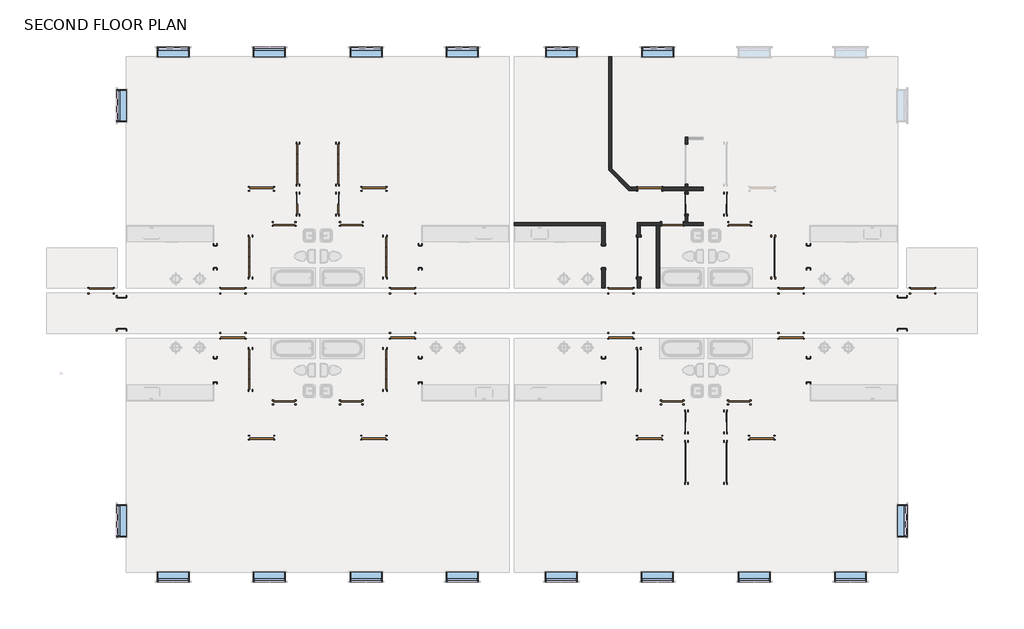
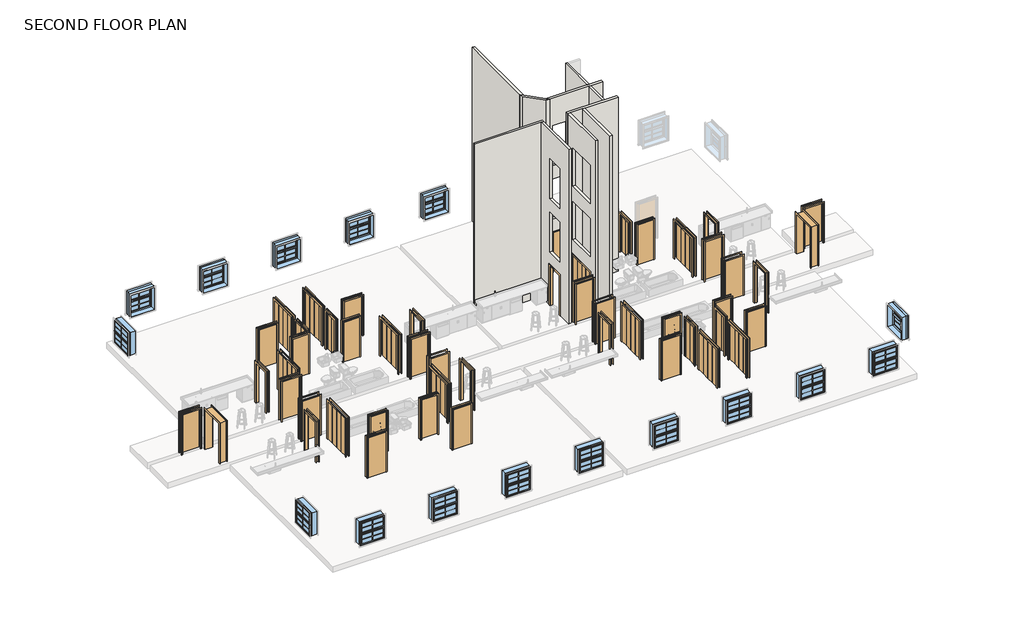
# One storey, part 1 of 3: 52 doors, 17 windows, 9 walls.
"""IFC4 building model written with IfcOpenShell, lengths in millimetres."""

from ifc_helpers import new_model, si_unit, frame, origin, place, context, project, spatial, polyline, outline, extrude, faceted_brep, transform, mapped, element, save
from components import door_3f50ce46, door_64f38517, door_5b7037ea, door_d932cd56, door_980512ef, door_ff2ed9a9, door_670c294a, door_0b3bd6c5, door_c8d27089, door_5d578f69, door_dc1527fd, door_ed16ebbe, door_053de108, door_d5256492, door_e5d25033, door_70d702ca, window_4464fd46, window_28d7aabf

model = new_model("IFC4")

# Units and contexts
model_context = context("Model", 3, world=origin())
ifc_project = project(units=[si_unit("LENGTHUNIT", "METRE", prefix="MILLI")], contexts=[model_context])

# Site, building, storey
site = spatial("IfcSite", under=ifc_project)
building = spatial("IfcBuilding", under=site)
storey = spatial("IfcBuildingStorey", under=building, Name="SECOND FLOOR PLAN", Elevation=2844.8)

# Doors
placement = place(None, origin())
door_shape = door_3f50ce46(model_context)
element("IfcDoor", 1, ObjectType="Door-Bifold_2-Panel_Flush_SlimFold_Dunbarton : 2'- 6\" x 6' - 8\"", at=placement, inside=storey, context=model_context, shape_type="MappedRepresentation", body=[
    mapped(door_shape, transform((2885.3209578, 9830.6762881, 2844.8), x_axis=(0.0, -1.0, 0.0), y_axis=(1.0, 0.0, 0.0), z_axis=(0.0, 0.0, 1.0))),
])
element("IfcDoor", 2, ObjectType="Door-Bifold_2-Panel_Flush_SlimFold_Dunbarton : 2'- 6\" x 6' - 8\"", at=placement, inside=storey, context=model_context, shape_type="MappedRepresentation", body=[
    mapped(door_shape, transform((17708.9209578, 9830.6762881, 2844.8), x_axis=(0.0, -1.0, 0.0), y_axis=(1.0, 0.0, 0.0), z_axis=(0.0, 0.0, 1.0))),
])
element("IfcDoor", 3, ObjectType="Door-Bifold_2-Panel_Flush_SlimFold_Dunbarton : 2'- 6\" x 6' - 8\"", at=placement, inside=storey, context=model_context, shape_type="MappedRepresentation", body=[
    mapped(door_shape, transform((16176.4960171, 1200.7012881, 2844.8), x_axis=(0.0, 1.0, 0.0), y_axis=(-1.0, 0.0, 0.0), z_axis=(0.0, 0.0, 1.0))),
])
door_2_shape = door_64f38517(model_context)
element("IfcDoor", 4, ObjectType="Door-Bifold_2-Panel_Flush_SlimFold_Dunbarton : 2'- 6\" x 6' - 8\"", at=placement, inside=storey, context=model_context, shape_type="MappedRepresentation", body=[
    mapped(door_2_shape, transform((1351.2960171, 9830.6762881, 2844.8), x_axis=(0.0, -1.0, 0.0), y_axis=(1.0, 0.0, 0.0), z_axis=(0.0, 0.0, 1.0))),
])
element("IfcDoor", 5, ObjectType="Door-Bifold_2-Panel_Flush_SlimFold_Dunbarton : 2'- 6\" x 6' - 8\"", at=placement, inside=storey, context=model_context, shape_type="MappedRepresentation", body=[
    mapped(door_2_shape, transform((16176.4960171, 9830.6762881, 2844.8), x_axis=(0.0, -1.0, 0.0), y_axis=(1.0, 0.0, 0.0), z_axis=(0.0, 0.0, 1.0))),
])
element("IfcDoor", 6, ObjectType="Door-Bifold_2-Panel_Flush_SlimFold_Dunbarton : 2'- 6\" x 6' - 8\"", at=placement, inside=storey, context=model_context, shape_type="MappedRepresentation", body=[
    mapped(door_2_shape, transform((17708.9209578, 1200.7012881, 2844.8), x_axis=(0.0, 1.0, 0.0), y_axis=(-1.0, 0.0, 0.0), z_axis=(0.0, 0.0, 1.0))),
])
door_3_shape = door_5b7037ea(model_context)
element("IfcDoor", 7, ObjectType="Door-Bifold 4-Panel Flush SlimFold_Dunbarton : 5'- 0\" x 6' - 8\"", at=placement, inside=storey, context=model_context, shape_type="MappedRepresentation", body=[
    mapped(door_3_shape, transform((2885.3209578, 11199.1012881, 2844.8), x_axis=(0.0, -1.0, 0.0), y_axis=(1.0, 0.0, 0.0), z_axis=(0.0, 0.0, 1.0))),
])
element("IfcDoor", 8, ObjectType="Door-Bifold 4-Panel Flush SlimFold_Dunbarton : 5'- 0\" x 6' - 8\"", at=placement, inside=storey, context=model_context, shape_type="MappedRepresentation", body=[
    mapped(door_3_shape, transform((1351.2960171, 11199.1012881, 2844.8), x_axis=(0.0, 1.0, 0.0), y_axis=(-1.0, 0.0, 0.0), z_axis=(0.0, 0.0, 1.0))),
])
element("IfcDoor", 9, ObjectType="Door-Bifold 4-Panel Flush SlimFold_Dunbarton : 5'- 0\" x 6' - 8\"", at=placement, inside=storey, context=model_context, shape_type="MappedRepresentation", body=[
    mapped(door_3_shape, transform((16176.4960171, -199.4737119, 2844.8), x_axis=(0.0, 1.0, 0.0), y_axis=(-1.0, 0.0, 0.0), z_axis=(0.0, 0.0, 1.0))),
])
element("IfcDoor", 10, ObjectType="Door-Bifold 4-Panel Flush SlimFold_Dunbarton : 5'- 0\" x 6' - 8\"", at=placement, inside=storey, context=model_context, shape_type="MappedRepresentation", body=[
    mapped(door_3_shape, transform((17708.9209578, -199.4737119, 2844.8), x_axis=(0.0, -1.0, 0.0), y_axis=(1.0, 0.0, 0.0), z_axis=(0.0, 0.0, 1.0))),
])
door_4_shape = door_d932cd56(model_context)
element("IfcDoor", 11, ObjectType="Door-Bifold 4-Panel Flush SlimFold_Dunbarton : 5'- 0\" x 6' - 8\"", at=placement, inside=storey, context=model_context, shape_type="MappedRepresentation", body=[
    mapped(door_4_shape, transform((4703.0084578, 7654.2137881, 2844.8), x_axis=(0.0, -1.0, 0.0), y_axis=(1.0, 0.0, 0.0), z_axis=(0.0, 0.0, 1.0))),
])
element("IfcDoor", 12, ObjectType="Door-Bifold 4-Panel Flush SlimFold_Dunbarton : 5'- 0\" x 6' - 8\"", at=placement, inside=storey, context=model_context, shape_type="MappedRepresentation", body=[
    mapped(door_4_shape, transform((-466.3914829, 7654.2137881, 2844.8), x_axis=(0.0, 1.0, 0.0), y_axis=(-1.0, 0.0, 0.0), z_axis=(0.0, 0.0, 1.0))),
])
element("IfcDoor", 13, ObjectType="Door-Bifold 4-Panel Flush SlimFold_Dunbarton : 5'- 0\" x 6' - 8\"", at=placement, inside=storey, context=model_context, shape_type="MappedRepresentation", body=[
    mapped(door_4_shape, transform((14358.8085171, 3345.4137881, 2844.8), x_axis=(0.0, 1.0, 0.0), y_axis=(-1.0, 0.0, 0.0), z_axis=(0.0, 0.0, 1.0))),
])
element("IfcDoor", 14, ObjectType="Door-Bifold 4-Panel Flush SlimFold_Dunbarton : 5'- 0\" x 6' - 8\"", at=placement, inside=storey, context=model_context, shape_type="MappedRepresentation", body=[
    mapped(door_4_shape, transform((-466.3914829, 3345.4137881, 2844.8), x_axis=(0.0, 1.0, 0.0), y_axis=(-1.0, 0.0, 0.0), z_axis=(0.0, 0.0, 1.0))),
])
door_5_shape = door_980512ef(model_context)
element("IfcDoor", 15, ObjectType="Door-Bifold 4-Panel Flush SlimFold_Dunbarton : 5'- 0\" x 6' - 8\"", at=placement, inside=storey, context=model_context, shape_type="MappedRepresentation", body=[
    mapped(door_5_shape, transform((14358.8085171, 7654.2137881, 2844.8), x_axis=(0.0, -1.0, 0.0), y_axis=(1.0, 0.0, 0.0), z_axis=(0.0, 0.0, 1.0))),
])
element("IfcDoor", 16, ObjectType="Door-Bifold 4-Panel Flush SlimFold_Dunbarton : 5'- 0\" x 6' - 8\"", at=placement, inside=storey, context=model_context, shape_type="MappedRepresentation", body=[
    mapped(door_5_shape, transform((19526.6084578, 7654.2137881, 2844.8), x_axis=(0.0, 1.0, 0.0), y_axis=(-1.0, 0.0, 0.0), z_axis=(0.0, 0.0, 1.0))),
])
element("IfcDoor", 17, ObjectType="Door-Bifold 4-Panel Flush SlimFold_Dunbarton : 5'- 0\" x 6' - 8\"", at=placement, inside=storey, context=model_context, shape_type="MappedRepresentation", body=[
    mapped(door_5_shape, transform((4703.0084578, 3345.4137881, 2844.8), x_axis=(0.0, 1.0, 0.0), y_axis=(-1.0, 0.0, 0.0), z_axis=(0.0, 0.0, 1.0))),
])
door_6_shape = door_ff2ed9a9(model_context)
element("IfcDoor", 18, ObjectType="M_Opening-Cased : 2'-10\"", at=placement, inside=storey, context=model_context, shape_type="MappedRepresentation", body=[
    mapped(door_6_shape, transform((-1793.4540125, 7662.4024448, 2844.8), x_axis=(0.0, 1.0, 0.0), y_axis=(-1.0, 0.0, 0.0), z_axis=(0.0, 0.0, 1.0))),
])
element("IfcDoor", 19, ObjectType="M_Opening-Cased : 2'-10\"", at=placement, inside=storey, context=model_context, shape_type="MappedRepresentation", body=[
    mapped(door_6_shape, transform((13031.7459875, 7662.4024448, 2844.8), x_axis=(0.0, 1.0, 0.0), y_axis=(-1.0, 0.0, 0.0), z_axis=(0.0, 0.0, 1.0))),
])
door_7_shape = door_670c294a(model_context)
element("IfcDoor", 20, ObjectType="M_Opening-Cased : 2'-10\"", at=placement, inside=storey, context=model_context, shape_type="MappedRepresentation", body=[
    mapped(door_7_shape, transform((20853.6709875, 7662.4024448, 2844.8), x_axis=(0.0, 1.0, 0.0), y_axis=(-1.0, 0.0, 0.0), z_axis=(0.0, 0.0, 1.0))),
])
element("IfcDoor", 21, ObjectType="M_Opening-Cased : 2'-10\"", at=placement, inside=storey, context=model_context, shape_type="MappedRepresentation", body=[
    mapped(door_7_shape, transform((6030.0709875, 7662.4024448, 2844.8), x_axis=(0.0, 1.0, 0.0), y_axis=(-1.0, 0.0, 0.0), z_axis=(0.0, 0.0, 1.0))),
])
door_8_shape = door_0b3bd6c5(model_context)
element("IfcDoor", 22, ObjectType="M_Opening-Cased : 3'-0\"", at=placement, inside=storey, context=model_context, shape_type="MappedRepresentation", body=[
    mapped(door_8_shape, transform((-1793.4540125, 3311.8251313, 2844.8), x_axis=(0.0, -1.0, 0.0), y_axis=(1.0, 0.0, 0.0), z_axis=(0.0, 0.0, 1.0))),
])
element("IfcDoor", 23, ObjectType="M_Opening-Cased : 3'-0\"", at=placement, inside=storey, context=model_context, shape_type="MappedRepresentation", body=[
    mapped(door_8_shape, transform((13031.7459875, 3311.8251313, 2844.8), x_axis=(0.0, -1.0, 0.0), y_axis=(1.0, 0.0, 0.0), z_axis=(0.0, 0.0, 1.0))),
])
door_9_shape = door_c8d27089(model_context)
element("IfcDoor", 24, ObjectType="M_Opening-Cased : 3'-0\"", at=placement, inside=storey, context=model_context, shape_type="MappedRepresentation", body=[
    mapped(door_9_shape, transform((6030.0709875, 3311.8251313, 2844.8), x_axis=(0.0, -1.0, 0.0), y_axis=(1.0, 0.0, 0.0), z_axis=(0.0, 0.0, 1.0))),
])
element("IfcDoor", 25, ObjectType="M_Opening-Cased : 3'-0\"", at=placement, inside=storey, context=model_context, shape_type="MappedRepresentation", body=[
    mapped(door_9_shape, transform((20853.6709875, 3311.8251313, 2844.8), x_axis=(0.0, -1.0, 0.0), y_axis=(1.0, 0.0, 0.0), z_axis=(0.0, 0.0, 1.0))),
])
door_10_shape = door_5d578f69(model_context)
element("IfcDoor", 26, ObjectType="M_Opening-Cased : 4'-0\"", at=placement, inside=storey, context=model_context, shape_type="MappedRepresentation", body=[
    mapped(door_10_shape, transform((-5371.8915125, 5491.6251313, 2844.8), x_axis=(0.0, -1.0, 0.0), y_axis=(1.0, 0.0, 0.0), z_axis=(0.0, 0.0, 1.0))),
])
element("IfcDoor", 27, ObjectType="M_Opening-Cased : 4'-0\"", at=placement, inside=storey, context=model_context, shape_type="MappedRepresentation", body=[
    mapped(door_10_shape, transform((24432.1084875, 5491.6251313, 2844.8), x_axis=(0.0, -1.0, 0.0), y_axis=(1.0, 0.0, 0.0), z_axis=(0.0, 0.0, 1.0))),
])
door_11_shape = door_dc1527fd(model_context)
element("IfcDoor", 28, ObjectType="Single-Flush : 32\" X 84\"", at=placement, inside=storey, context=model_context, shape_type="MappedRepresentation", body=[
    mapped(door_11_shape, transform((834.0209875, 8909.9262881, 2844.8), x_axis=(-1.0, 0.0, 0.0), y_axis=(0.0, -1.0, 0.0), z_axis=(0.0, 0.0, 1.0))),
])
element("IfcDoor", 29, ObjectType="Single-Flush : 32\" X 84\"", at=placement, inside=storey, context=model_context, shape_type="MappedRepresentation", body=[
    mapped(door_11_shape, transform((15658.4209875, 8909.9262881, 2844.8), x_axis=(-1.0, 0.0, 0.0), y_axis=(0.0, -1.0, 0.0), z_axis=(0.0, 0.0, 1.0))),
])
element("IfcDoor", 30, ObjectType="Single-Flush : 32\" X 84\"", at=placement, inside=storey, context=model_context, shape_type="MappedRepresentation", body=[
    mapped(door_11_shape, transform((3396.4084875, 2089.7012881, 2844.8), x_axis=(1.0, 0.0, 0.0), y_axis=(0.0, 1.0, 0.0), z_axis=(0.0, 0.0, 1.0))),
])
element("IfcDoor", 31, ObjectType="Single-Flush : 32\" X 84\"", at=placement, inside=storey, context=model_context, shape_type="MappedRepresentation", body=[
    mapped(door_11_shape, transform((18210.0084875, 2089.7012881, 2844.8), x_axis=(1.0, 0.0, 0.0), y_axis=(0.0, 1.0, 0.0), z_axis=(0.0, 0.0, 1.0))),
])
door_12_shape = door_ed16ebbe(model_context)
element("IfcDoor", 32, ObjectType="Single-Flush : 32\" X 84\"", at=placement, inside=storey, context=model_context, shape_type="MappedRepresentation", body=[
    mapped(door_12_shape, transform((840.2084875, 2089.7012881, 2844.8), x_axis=(-1.0, 0.0, 0.0), y_axis=(0.0, -1.0, 0.0), z_axis=(0.0, 0.0, 1.0))),
])
element("IfcDoor", 33, ObjectType="Single-Flush : 32\" X 84\"", at=placement, inside=storey, context=model_context, shape_type="MappedRepresentation", body=[
    mapped(door_12_shape, transform((3402.5959875, 8909.9262881, 2844.8), x_axis=(1.0, 0.0, 0.0), y_axis=(0.0, 1.0, 0.0), z_axis=(0.0, 0.0, 1.0))),
])
element("IfcDoor", 34, ObjectType="Single-Flush : 32\" X 84\"", at=placement, inside=storey, context=model_context, shape_type="MappedRepresentation", body=[
    mapped(door_12_shape, transform((18226.9959875, 8909.9262881, 2844.8), x_axis=(1.0, 0.0, 0.0), y_axis=(0.0, 1.0, 0.0), z_axis=(0.0, 0.0, 1.0))),
])
element("IfcDoor", 35, ObjectType="Single-Flush : 32\" X 84\"", at=placement, inside=storey, context=model_context, shape_type="MappedRepresentation", body=[
    mapped(door_12_shape, transform((15653.8084875, 2089.7012881, 2844.8), x_axis=(-1.0, 0.0, 0.0), y_axis=(0.0, -1.0, 0.0), z_axis=(0.0, 0.0, 1.0))),
])
door_13_shape = door_053de108(model_context)
element("IfcDoor", 36, ObjectType="Single-Flush : 36' x 84\"", at=placement, inside=storey, context=model_context, shape_type="MappedRepresentation", body=[
    mapped(door_13_shape, transform((-1121.9415125, 4636.2137881, 2844.8), x_axis=(-1.0, 0.0, 0.0), y_axis=(0.0, -1.0, 0.0), z_axis=(0.0, 0.0, 1.0))),
])
element("IfcDoor", 37, ObjectType="Single-Flush : 36' x 84\"", at=placement, inside=storey, context=model_context, shape_type="MappedRepresentation", body=[
    mapped(door_13_shape, transform((5358.5584875, 6363.4137881, 2844.8), x_axis=(1.0, 0.0, 0.0), y_axis=(0.0, 1.0, 0.0), z_axis=(0.0, 0.0, 1.0))),
])
element("IfcDoor", 38, ObjectType="Single-Flush : 36' x 84\"", at=placement, inside=storey, context=model_context, shape_type="MappedRepresentation", body=[
    mapped(door_13_shape, transform((13691.6584875, 4636.2137881, 2844.8), x_axis=(-1.0, 0.0, 0.0), y_axis=(0.0, -1.0, 0.0), z_axis=(0.0, 0.0, 1.0))),
])
element("IfcDoor", 39, ObjectType="Single-Flush : 36' x 84\"", at=placement, inside=storey, context=model_context, shape_type="MappedRepresentation", body=[
    mapped(door_13_shape, transform((20193.7584875, 6363.4137881, 2844.8), x_axis=(1.0, 0.0, 0.0), y_axis=(0.0, 1.0, 0.0), z_axis=(0.0, 0.0, 1.0))),
])
element("IfcDoor", 40, ObjectType="Single-Flush : 36' x 84\"", at=placement, inside=storey, context=model_context, shape_type="MappedRepresentation", body=[
    mapped(door_13_shape, transform((-6156.4915125, 6363.4137881, 2844.8), x_axis=(1.0, 0.0, 0.0), y_axis=(0.0, 1.0, 0.0), z_axis=(0.0, 0.0, 1.0))),
])
door_14_shape = door_d5256492(model_context)
element("IfcDoor", 41, ObjectType="Single-Flush : 36' x 84\"", at=placement, inside=storey, context=model_context, shape_type="MappedRepresentation", body=[
    mapped(door_14_shape, transform((-1121.9415125, 6363.4137881, 2844.8), x_axis=(-1.0, 0.0, 0.0), y_axis=(0.0, -1.0, 0.0), z_axis=(0.0, 0.0, 1.0))),
])
element("IfcDoor", 42, ObjectType="Single-Flush : 36' x 84\"", at=placement, inside=storey, context=model_context, shape_type="MappedRepresentation", body=[
    mapped(door_14_shape, transform((5358.5584875, 4636.2137881, 2844.8), x_axis=(1.0, 0.0, 0.0), y_axis=(0.0, 1.0, 0.0), z_axis=(0.0, 0.0, 1.0))),
])
element("IfcDoor", 43, ObjectType="Single-Flush : 36' x 84\"", at=placement, inside=storey, context=model_context, shape_type="MappedRepresentation", body=[
    mapped(door_14_shape, transform((13691.6584875, 6363.4137881, 2844.8), x_axis=(-1.0, 0.0, 0.0), y_axis=(0.0, -1.0, 0.0), z_axis=(0.0, 0.0, 1.0))),
])
element("IfcDoor", 44, ObjectType="Single-Flush : 36' x 84\"", at=placement, inside=storey, context=model_context, shape_type="MappedRepresentation", body=[
    mapped(door_14_shape, transform((20193.7584875, 4636.2137881, 2844.8), x_axis=(1.0, 0.0, 0.0), y_axis=(0.0, 1.0, 0.0), z_axis=(0.0, 0.0, 1.0))),
])
element("IfcDoor", 45, ObjectType="Single-Flush : 36' x 84\"", at=placement, inside=storey, context=model_context, shape_type="MappedRepresentation", body=[
    mapped(door_14_shape, transform((25216.7084875, 6363.4137881, 2844.8), x_axis=(-1.0, 0.0, 0.0), y_axis=(0.0, -1.0, 0.0), z_axis=(0.0, 0.0, 1.0))),
])
door_15_shape = door_e5d25033(model_context)
element("IfcDoor", 46, ObjectType="Single-Flush : 36' x 84\"", at=placement, inside=storey, context=model_context, shape_type="MappedRepresentation", body=[
    mapped(door_15_shape, transform((-23.3915125, 746.6762881, 2844.8), x_axis=(-1.0, 0.0, 0.0), y_axis=(0.0, -1.0, 0.0), z_axis=(0.0, 0.0, 1.0))),
])
element("IfcDoor", 47, ObjectType="Single-Flush : 36' x 84\"", at=placement, inside=storey, context=model_context, shape_type="MappedRepresentation", body=[
    mapped(door_15_shape, transform((14790.2084875, 746.6762881, 2844.8), x_axis=(-1.0, 0.0, 0.0), y_axis=(0.0, -1.0, 0.0), z_axis=(0.0, 0.0, 1.0))),
])
element("IfcDoor", 48, ObjectType="Single-Flush : 36' x 84\"", at=placement, inside=storey, context=model_context, shape_type="MappedRepresentation", body=[
    mapped(door_15_shape, transform((4266.1959875, 10252.9512881, 2844.8), x_axis=(1.0, 0.0, 0.0), y_axis=(0.0, 1.0, 0.0), z_axis=(0.0, 0.0, 1.0))),
])
door_16_shape = door_70d702ca(model_context)
element("IfcDoor", 49, ObjectType="Single-Flush : 36' x 84\"", at=placement, inside=storey, context=model_context, shape_type="MappedRepresentation", body=[
    mapped(door_16_shape, transform((4260.0084875, 746.6762881, 2844.8), x_axis=(1.0, 0.0, 0.0), y_axis=(0.0, 1.0, 0.0), z_axis=(0.0, 0.0, 1.0))),
])
element("IfcDoor", 50, ObjectType="Single-Flush : 36' x 84\"", at=placement, inside=storey, context=model_context, shape_type="MappedRepresentation", body=[
    mapped(door_16_shape, transform((19073.6084875, 746.6762881, 2844.8), x_axis=(1.0, 0.0, 0.0), y_axis=(0.0, 1.0, 0.0), z_axis=(0.0, 0.0, 1.0))),
])
element("IfcDoor", 51, ObjectType="Single-Flush : 36' x 84\"", at=placement, inside=storey, context=model_context, shape_type="MappedRepresentation", body=[
    mapped(door_16_shape, transform((-29.5790125, 10252.9512881, 2844.8), x_axis=(-1.0, 0.0, 0.0), y_axis=(0.0, -1.0, 0.0), z_axis=(0.0, 0.0, 1.0))),
])
element("IfcDoor", 52, ObjectType="Single-Flush : 36' x 84\"", at=placement, inside=storey, context=model_context, shape_type="MappedRepresentation", body=[
    mapped(door_16_shape, transform((14794.8209875, 10252.9512881, 2844.8), x_axis=(-1.0, 0.0, 0.0), y_axis=(0.0, -1.0, 0.0), z_axis=(0.0, 0.0, 1.0))),
])

# Walls
element("IfcWall", 53, ObjectType="Generic - 3 1/2\"", at=placement, inside=storey, context=model_context, shape_type="Brep", body=[
    faceted_brep([(16236.9084875, 12227.8012881, 2844.8), (16236.9084875, 12227.8012881, 12141.2), (16236.9084875, 12138.9012881, 12141.2), (16236.9084875, 10314.8637881, 12141.2), (16236.9084875, 10314.8637881, 2844.8), (16236.9084875, 10437.1012881, 2844.8), (16236.9084875, 10437.1012881, 4876.8), (16236.9084875, 11961.1012881, 4876.8), (16236.9084875, 11961.1012881, 2844.8), (16236.9084875, 12138.9012881, 2844.8), (16236.9084875, 10437.1012881, 5689.6), (16236.9084875, 10437.1012881, 7721.6), (16236.9084875, 11961.1012881, 7721.6), (16236.9084875, 11961.1012881, 5689.6), (16236.9084875, 10437.1012881, 8534.4), (16236.9084875, 10437.1012881, 10566.4), (16236.9084875, 11961.1012881, 10566.4), (16236.9084875, 11961.1012881, 8534.4), (16148.0084875, 12227.8012881, 12141.2), (16148.0084875, 12227.8012881, 2844.8), (16148.0084875, 11961.1012881, 2844.8), (16148.0084875, 11961.1012881, 4876.8), (16148.0084875, 10437.1012881, 4876.8), (16148.0084875, 10437.1012881, 2844.8), (16148.0084875, 10314.8637881, 2844.8), (16148.0084875, 10314.8637881, 12141.2), (16148.0084875, 10437.1012881, 7721.6), (16148.0084875, 10437.1012881, 5689.6), (16148.0084875, 11961.1012881, 5689.6), (16148.0084875, 11961.1012881, 7721.6), (16148.0084875, 10437.1012881, 10566.4), (16148.0084875, 10437.1012881, 8534.4), (16148.0084875, 11961.1012881, 8534.4), (16148.0084875, 11961.1012881, 10566.4)], [[[0, 1, 2, 3, 4, 5, 6, 7, 8, 9], [10, 11, 12, 13], [14, 15, 16, 17]], [[18, 19, 20, 21, 22, 23, 24, 25], [26, 27, 28, 29], [30, 31, 32, 33]], [[19, 0, 9, 8, 20]], [[23, 5, 4, 24]], [[1, 18, 25, 3, 2]], [[1, 0, 19, 18]], [[4, 3, 25, 24]], [[22, 6, 5, 23]], [[6, 22, 21, 7]], [[7, 21, 20, 8]], [[11, 10, 27, 26]], [[12, 11, 26, 29]], [[13, 12, 29, 28]], [[10, 13, 28, 27]], [[15, 14, 31, 30]], [[16, 15, 30, 33]], [[17, 16, 33, 32]], [[14, 17, 32, 31]]]),
    faceted_brep([(16236.9084875, 8971.8387881, 12141.2), (16236.9084875, 8971.8387881, 2844.8), (16236.9084875, 9297.2762881, 2844.8), (16236.9084875, 9297.2762881, 4876.8), (16236.9084875, 10059.2762881, 4876.8), (16236.9084875, 10059.2762881, 2844.8), (16236.9084875, 10191.0387881, 2844.8), (16236.9084875, 10191.0387881, 12141.2), (16236.9084875, 9297.2762881, 5689.6), (16236.9084875, 9297.2762881, 7721.6), (16236.9084875, 10059.2762881, 7721.6), (16236.9084875, 10059.2762881, 5689.6), (16236.9084875, 9297.2762881, 8534.4), (16236.9084875, 9297.2762881, 10566.4), (16236.9084875, 10059.2762881, 10566.4), (16236.9084875, 10059.2762881, 8534.4), (16148.0084875, 8971.8387881, 2844.8), (16148.0084875, 8971.8387881, 12141.2), (16148.0084875, 10191.0387881, 12141.2), (16148.0084875, 10191.0387881, 2844.8), (16148.0084875, 10059.2762881, 2844.8), (16148.0084875, 10059.2762881, 4876.8), (16148.0084875, 9297.2762881, 4876.8), (16148.0084875, 9297.2762881, 2844.8), (16148.0084875, 9297.2762881, 7721.6), (16148.0084875, 9297.2762881, 5689.6), (16148.0084875, 10059.2762881, 5689.6), (16148.0084875, 10059.2762881, 7721.6), (16148.0084875, 9297.2762881, 10566.4), (16148.0084875, 9297.2762881, 8534.4), (16148.0084875, 10059.2762881, 8534.4), (16148.0084875, 10059.2762881, 10566.4)], [[[0, 1, 2, 3, 4, 5, 6, 7], [8, 9, 10, 11], [12, 13, 14, 15]], [[16, 17, 18, 19, 20, 21, 22, 23], [24, 25, 26, 27], [28, 29, 30, 31]], [[1, 16, 23, 2]], [[5, 20, 19, 6]], [[17, 0, 7, 18]], [[7, 6, 19, 18]], [[1, 0, 17, 16]], [[22, 3, 2, 23]], [[3, 22, 21, 4]], [[4, 21, 20, 5]], [[9, 8, 25, 24]], [[10, 9, 24, 27]], [[11, 10, 27, 26]], [[8, 11, 26, 25]], [[13, 12, 29, 28]], [[14, 13, 28, 31]], [[15, 14, 31, 30]], [[12, 15, 30, 29]]]),
])
element("IfcWall", 54, ObjectType="Generic - 4 7/8\"", at=placement, inside=storey, context=model_context, shape_type="SweptSolid", body=[
    extrude(outline(polyline([(13223.9959875, 11142.469227), (13223.9959875, 15304.2137881), (13347.8209875, 15304.2137881), (13347.8209875, 11018.644227), (13223.9959875, 11142.469227)])), frame((0.0, 0.0, 2844.8), z_axis=(0.0, 0.0, 1.0), x_axis=(1.0, 0.0, 0.0)), (0.0, 0.0, 1.0), 9296.4),
])
element("IfcWall", 55, ObjectType="Generic - 4 7/8\"", at=placement, inside=storey, context=model_context, shape_type="Brep", body=[
    faceted_brep([(14312.8584875, 8848.0137881, 2844.8), (14436.6834875, 8848.0137881, 2844.8), (15046.2834875, 8848.0137881, 2844.8), (15170.1084875, 8848.0137881, 2844.8), (15252.0209875, 8848.0137881, 2844.8), (15252.0209875, 8848.0137881, 4978.4), (16064.8209875, 8848.0137881, 4978.4), (16064.8209875, 8848.0137881, 2844.8), (16845.7084875, 8848.0137881, 2844.8), (16845.7084875, 8848.0137881, 12141.2), (15170.1084875, 8848.0137881, 12141.2), (15046.2834875, 8848.0137881, 12141.2), (14436.6834875, 8848.0137881, 12141.2), (14312.8584875, 8848.0137881, 12141.2), (16064.8209875, 8848.0137881, 5689.6), (15252.0209875, 8848.0137881, 5689.6), (15252.0209875, 8848.0137881, 7823.2), (16064.8209875, 8848.0137881, 7823.2), (16064.8209875, 8848.0137881, 8534.4), (15252.0209875, 8848.0137881, 8534.4), (15252.0209875, 8848.0137881, 10668.0), (16064.8209875, 8848.0137881, 10668.0), (15252.0209875, 8971.8387881, 4978.4), (15252.0209875, 8971.8387881, 2844.8), (14312.8584875, 8971.8387881, 2844.8), (14312.8584875, 8971.8387881, 12141.2), (16148.0084875, 8971.8387881, 12141.2), (16236.9084875, 8971.8387881, 12141.2), (16845.7084875, 8971.8387881, 12141.2), (16845.7084875, 8971.8387881, 2844.8), (16236.9084875, 8971.8387881, 2844.8), (16148.0084875, 8971.8387881, 2844.8), (16064.8209875, 8971.8387881, 2844.8), (16064.8209875, 8971.8387881, 4978.4), (16064.8209875, 8971.8387881, 5689.6), (16064.8209875, 8971.8387881, 7823.2), (15252.0209875, 8971.8387881, 7823.2), (15252.0209875, 8971.8387881, 5689.6), (16064.8209875, 8971.8387881, 8534.4), (16064.8209875, 8971.8387881, 10668.0), (15252.0209875, 8971.8387881, 10668.0), (15252.0209875, 8971.8387881, 8534.4)], [[[0, 1, 2, 3, 4, 5, 6, 7, 8, 9, 10, 11, 12, 13], [14, 15, 16, 17], [18, 19, 20, 21]], [[22, 23, 24, 25, 26, 27, 28, 29, 30, 31, 32, 33], [34, 35, 36, 37], [38, 39, 40, 41]], [[24, 23, 4, 3, 2, 1, 0]], [[32, 31, 30, 29, 8, 7]], [[13, 12, 11, 10, 9, 28, 27, 26, 25]], [[0, 13, 25, 24]], [[9, 8, 29, 28]], [[5, 4, 23, 22]], [[6, 5, 22, 33]], [[7, 6, 33, 32]], [[15, 14, 34, 37]], [[16, 15, 37, 36]], [[17, 16, 36, 35]], [[14, 17, 35, 34]], [[19, 18, 38, 41]], [[20, 19, 41, 40]], [[21, 20, 40, 39]], [[18, 21, 39, 38]]]),
])
element("IfcWall", 56, ObjectType="Generic - 4 7/8\"", at=placement, inside=storey, context=model_context, shape_type="SweptSolid", body=[
    extrude(outline(polyline([(15046.2834875, 6460.4137881), (15046.2834875, 8848.0137881), (15170.1084875, 8848.0137881), (15170.1084875, 6460.4137881), (15046.2834875, 6460.4137881)])), frame((0.0, 0.0, 2844.8), z_axis=(0.0, 0.0, 1.0), x_axis=(1.0, 0.0, 0.0)), (0.0, 0.0, 1.0), 9296.4),
])
element("IfcWall", 57, ObjectType="Generic - 4 7/8\"", at=placement, inside=storey, context=model_context, shape_type="Brep", body=[
    faceted_brep([(9627.5084875, 8848.0137881, 2844.8), (12969.8334875, 8848.0137881, 2844.8), (13093.6584875, 8848.0137881, 2844.8), (13093.6584875, 8848.0137881, 12141.2), (12969.8334875, 8848.0137881, 12141.2), (9627.5084875, 8848.0137881, 12141.2), (9627.5084875, 8971.8387881, 2844.8), (9627.5084875, 8971.8387881, 12141.2), (13093.6584875, 8971.8387881, 12141.2), (13093.6584875, 8971.8387881, 2844.8)], [[[0, 1, 2, 3, 4, 5]], [[6, 7, 8, 9]], [[2, 1, 0, 6, 9]], [[5, 4, 3, 8, 7]], [[3, 2, 9, 8]], [[0, 5, 7, 6]]]),
])
element("IfcWall", 58, ObjectType="Generic - 4 7/8\"", at=placement, inside=storey, context=model_context, shape_type="SweptSolid", body=[
    extrude(outline(polyline([(8848.0137881, 2844.8), (8086.0137881, 2844.8), (8086.0137881, 4978.4), (7222.4137881, 4978.4), (7222.4137881, 2844.8), (6460.4137881, 2844.8), (6460.4137881, 12141.2), (8848.0137881, 12141.2), (8848.0137881, 2844.8)]), holes=[polyline([(7222.4137881, 7823.2), (7222.4137881, 5689.6), (8086.0137881, 5689.6), (8086.0137881, 7823.2), (7222.4137881, 7823.2)]), polyline([(7222.4137881, 10668.0), (7222.4137881, 8534.4), (8086.0137881, 8534.4), (8086.0137881, 10668.0), (7222.4137881, 10668.0)])]), frame((12969.8334875, 0.0, 0.0), z_axis=(1.0, 0.0, 0.0), x_axis=(0.0, 1.0, 0.0)), (0.0, 0.0, 1.0), 123.825),
])
element("IfcWall", 59, ObjectType="Generic - 4 7/8\"", at=placement, inside=storey, context=model_context, shape_type="SweptSolid", body=[
    extrude(outline(polyline([(6460.4137881, 12141.2), (8848.0137881, 12141.2), (8848.0137881, 2844.8), (8416.2137881, 2844.8), (8416.2137881, 4876.8), (6892.2137881, 4876.8), (6892.2137881, 2844.8), (6460.4137881, 2844.8), (6460.4137881, 12141.2)]), holes=[polyline([(6892.2137881, 5689.6), (8416.2137881, 5689.6), (8416.2137881, 7721.6), (6892.2137881, 7721.6), (6892.2137881, 5689.6)]), polyline([(6892.2137881, 8534.4), (8416.2137881, 8534.4), (8416.2137881, 10566.4), (6892.2137881, 10566.4), (6892.2137881, 8534.4)])]), frame((14312.8584875, 0.0, 0.0), z_axis=(1.0, 0.0, 0.0), x_axis=(0.0, 1.0, 0.0)), (0.0, 0.0, 1.0), 123.825),
])
element("IfcWall", 60, ObjectType="Generic - 4 7/8\"", at=placement, inside=storey, context=model_context, shape_type="Brep", body=[
    faceted_brep([(14337.6209875, 10314.8637881, 4978.4), (14337.6209875, 10314.8637881, 2844.8), (14051.6014264, 10314.8637881, 2844.8), (14051.6014264, 10314.8637881, 12141.2), (16148.0084875, 10314.8637881, 12141.2), (16236.9084875, 10314.8637881, 12141.2), (16845.7084875, 10314.8637881, 12141.2), (16845.7084875, 10314.8637881, 2844.8), (16236.9084875, 10314.8637881, 2844.8), (16148.0084875, 10314.8637881, 2844.8), (15252.0209875, 10314.8637881, 2844.8), (15252.0209875, 10314.8637881, 4978.4), (15252.0209875, 10314.8637881, 5689.6), (15252.0209875, 10314.8637881, 7823.2), (14337.6209875, 10314.8637881, 7823.2), (14337.6209875, 10314.8637881, 5689.6), (15252.0209875, 10314.8637881, 8534.4), (15252.0209875, 10314.8637881, 10668.0), (14337.6209875, 10314.8637881, 10668.0), (14337.6209875, 10314.8637881, 8534.4), (14175.4264264, 10191.0387881, 2844.8), (14337.6209875, 10191.0387881, 2844.8), (14337.6209875, 10191.0387881, 4978.4), (15252.0209875, 10191.0387881, 4978.4), (15252.0209875, 10191.0387881, 2844.8), (16148.0084875, 10191.0387881, 2844.8), (16236.9084875, 10191.0387881, 2844.8), (16845.7084875, 10191.0387881, 2844.8), (16845.7084875, 10191.0387881, 12141.2), (16236.9084875, 10191.0387881, 12141.2), (16148.0084875, 10191.0387881, 12141.2), (14175.4264264, 10191.0387881, 12141.2), (15252.0209875, 10191.0387881, 5689.6), (14337.6209875, 10191.0387881, 5689.6), (14337.6209875, 10191.0387881, 7823.2), (15252.0209875, 10191.0387881, 7823.2), (15252.0209875, 10191.0387881, 8534.4), (14337.6209875, 10191.0387881, 8534.4), (14337.6209875, 10191.0387881, 10668.0), (15252.0209875, 10191.0387881, 10668.0)], [[[0, 1, 2, 3, 4, 5, 6, 7, 8, 9, 10, 11], [12, 13, 14, 15], [16, 17, 18, 19]], [[20, 21, 22, 23, 24, 25, 26, 27, 28, 29, 30, 31], [32, 33, 34, 35], [36, 37, 38, 39]], [[2, 1, 21, 20]], [[10, 9, 8, 7, 27, 26, 25, 24]], [[6, 5, 4, 3, 31, 30, 29, 28]], [[3, 2, 20, 31]], [[7, 6, 28, 27]], [[22, 21, 1, 0]], [[23, 22, 0, 11]], [[24, 23, 11, 10]], [[33, 32, 12, 15]], [[34, 33, 15, 14]], [[35, 34, 14, 13]], [[32, 35, 13, 12]], [[37, 36, 16, 19]], [[38, 37, 19, 18]], [[39, 38, 18, 17]], [[36, 39, 17, 16]]]),
])
element("IfcWall", 61, ObjectType="Generic - 4 7/8\"", at=placement, inside=storey, context=model_context, shape_type="Brep", body=[
    faceted_brep([(14175.4264264, 10191.0387881, 2844.8), (14051.6014264, 10314.8637881, 2844.8), (13347.8209875, 11018.644227, 2844.8), (13223.9959875, 11142.469227, 2844.8), (13223.9959875, 11142.469227, 12141.2), (13347.8209875, 11018.644227, 12141.2), (14051.6014264, 10314.8637881, 12141.2), (14175.4264264, 10191.0387881, 12141.2), (14000.311432, 10191.0387881, 2844.8), (14000.311432, 10191.0387881, 12141.2), (13223.9959875, 10967.3542326, 12141.2), (13223.9959875, 10967.3542326, 2844.8)], [[[0, 1, 2, 3, 4, 5, 6, 7]], [[8, 9, 10, 11]], [[3, 2, 1, 0, 8, 11]], [[7, 6, 5, 4, 10, 9]], [[0, 7, 9, 8]], [[4, 3, 11, 10]]]),
])

# Windows
window_shape = window_4464fd46(model_context)
element("IfcWindow", 62, ObjectType="Window-Awning-Double-Vertical : 48\" x 48\"", at=placement, inside=storey, context=model_context, shape_type="MappedRepresentation", body=[
    mapped(window_shape, transform((-5371.8915125, 13431.007194, 2844.8), x_axis=(0.0, 1.0, 0.0), y_axis=(-1.0, 0.0, 0.0), z_axis=(0.0, 0.0, 1.0))),
])
element("IfcWindow", 63, ObjectType="Window-Awning-Double-Vertical : 48\" x 48\"", at=placement, inside=storey, context=model_context, shape_type="MappedRepresentation", body=[
    mapped(window_shape, transform((-3399.0477625, 15479.2137881, 2844.8), x_axis=(1.0, 0.0, 0.0), y_axis=(0.0, 1.0, 0.0), z_axis=(0.0, 0.0, 1.0))),
])
element("IfcWindow", 64, ObjectType="Window-Awning-Double-Vertical : 48\" x 48\"", at=placement, inside=storey, context=model_context, shape_type="MappedRepresentation", body=[
    mapped(window_shape, transform((271.9647375, 15479.2137881, 2844.8), x_axis=(1.0, 0.0, 0.0), y_axis=(0.0, 1.0, 0.0), z_axis=(0.0, 0.0, 1.0))),
])
element("IfcWindow", 65, ObjectType="Window-Awning-Double-Vertical : 48\" x 48\"", at=placement, inside=storey, context=model_context, shape_type="MappedRepresentation", body=[
    mapped(window_shape, transform((7635.6647375, -4576.5862119, 2844.8), x_axis=(-1.0, 0.0, 0.0), y_axis=(0.0, -1.0, 0.0), z_axis=(0.0, 0.0, 1.0))),
])
element("IfcWindow", 66, ObjectType="Window-Awning-Double-Vertical : 48\" x 48\"", at=placement, inside=storey, context=model_context, shape_type="MappedRepresentation", body=[
    mapped(window_shape, transform((3964.6522375, -4576.5862119, 2844.8), x_axis=(-1.0, 0.0, 0.0), y_axis=(0.0, -1.0, 0.0), z_axis=(0.0, 0.0, 1.0))),
])
element("IfcWindow", 67, ObjectType="Window-Awning-Double-Vertical : 48\" x 48\"", at=placement, inside=storey, context=model_context, shape_type="MappedRepresentation", body=[
    mapped(window_shape, transform((24432.1084875, -2431.3796179, 2844.8), x_axis=(0.0, -1.0, 0.0), y_axis=(1.0, 0.0, 0.0), z_axis=(0.0, 0.0, 1.0))),
])
element("IfcWindow", 68, ObjectType="Window-Awning-Double-Vertical : 48\" x 48\"", at=placement, inside=storey, context=model_context, shape_type="MappedRepresentation", body=[
    mapped(window_shape, transform((22460.0647375, -4576.5862119, 2844.8), x_axis=(-1.0, 0.0, 0.0), y_axis=(0.0, -1.0, 0.0), z_axis=(0.0, 0.0, 1.0))),
])
element("IfcWindow", 69, ObjectType="Window-Awning-Double-Vertical : 48\" x 48\"", at=placement, inside=storey, context=model_context, shape_type="MappedRepresentation", body=[
    mapped(window_shape, transform((18789.0522375, -4576.5862119, 2844.8), x_axis=(-1.0, 0.0, 0.0), y_axis=(0.0, -1.0, 0.0), z_axis=(0.0, 0.0, 1.0))),
])
element("IfcWindow", 70, ObjectType="Window-Awning-Double-Vertical : 48\" x 48\"", at=placement, inside=storey, context=model_context, shape_type="MappedRepresentation", body=[
    mapped(window_shape, transform((11425.3522375, 15479.2137881, 2844.8), x_axis=(1.0, 0.0, 0.0), y_axis=(0.0, 1.0, 0.0), z_axis=(0.0, 0.0, 1.0))),
])
element("IfcWindow", 71, ObjectType="Window-Awning-Double-Vertical : 48\" x 48\"", at=placement, inside=storey, context=model_context, shape_type="MappedRepresentation", body=[
    mapped(window_shape, transform((15096.3647375, 15479.2137881, 2844.8), x_axis=(1.0, 0.0, 0.0), y_axis=(0.0, 1.0, 0.0), z_axis=(0.0, 0.0, 1.0))),
])
window_2_shape = window_28d7aabf(model_context)
element("IfcWindow", 72, ObjectType="Window-Awning-Double-Vertical : 48\" x 48\"", at=placement, inside=storey, context=model_context, shape_type="MappedRepresentation", body=[
    mapped(window_2_shape, transform((7635.6647375, 15479.2137881, 2844.8), x_axis=(-1.0, 0.0, 0.0), y_axis=(0.0, -1.0, 0.0), z_axis=(0.0, 0.0, 1.0))),
])
element("IfcWindow", 73, ObjectType="Window-Awning-Double-Vertical : 48\" x 48\"", at=placement, inside=storey, context=model_context, shape_type="MappedRepresentation", body=[
    mapped(window_2_shape, transform((3964.6522375, 15479.2137881, 2844.8), x_axis=(-1.0, 0.0, 0.0), y_axis=(0.0, -1.0, 0.0), z_axis=(0.0, 0.0, 1.0))),
])
element("IfcWindow", 74, ObjectType="Window-Awning-Double-Vertical : 48\" x 48\"", at=placement, inside=storey, context=model_context, shape_type="MappedRepresentation", body=[
    mapped(window_2_shape, transform((-5371.8915125, -2431.3796179, 2844.8), x_axis=(0.0, -1.0, 0.0), y_axis=(1.0, 0.0, 0.0), z_axis=(0.0, 0.0, 1.0))),
])
element("IfcWindow", 75, ObjectType="Window-Awning-Double-Vertical : 48\" x 48\"", at=placement, inside=storey, context=model_context, shape_type="MappedRepresentation", body=[
    mapped(window_2_shape, transform((-3399.0477625, -4576.5862119, 2844.8), x_axis=(1.0, 0.0, 0.0), y_axis=(0.0, 1.0, 0.0), z_axis=(0.0, 0.0, 1.0))),
])
element("IfcWindow", 76, ObjectType="Window-Awning-Double-Vertical : 48\" x 48\"", at=placement, inside=storey, context=model_context, shape_type="MappedRepresentation", body=[
    mapped(window_2_shape, transform((271.9647375, -4576.5862119, 2844.8), x_axis=(1.0, 0.0, 0.0), y_axis=(0.0, 1.0, 0.0), z_axis=(0.0, 0.0, 1.0))),
])
element("IfcWindow", 77, ObjectType="Window-Awning-Double-Vertical : 48\" x 48\"", at=placement, inside=storey, context=model_context, shape_type="MappedRepresentation", body=[
    mapped(window_2_shape, transform((11414.5522375, -4576.5862119, 2844.8), x_axis=(1.0, 0.0, 0.0), y_axis=(0.0, 1.0, 0.0), z_axis=(0.0, 0.0, 1.0))),
])
element("IfcWindow", 78, ObjectType="Window-Awning-Double-Vertical : 48\" x 48\"", at=placement, inside=storey, context=model_context, shape_type="MappedRepresentation", body=[
    mapped(window_2_shape, transform((15085.5647375, -4576.5862119, 2844.8), x_axis=(1.0, 0.0, 0.0), y_axis=(0.0, 1.0, 0.0), z_axis=(0.0, 0.0, 1.0))),
])

save(model, "model.ifc")
